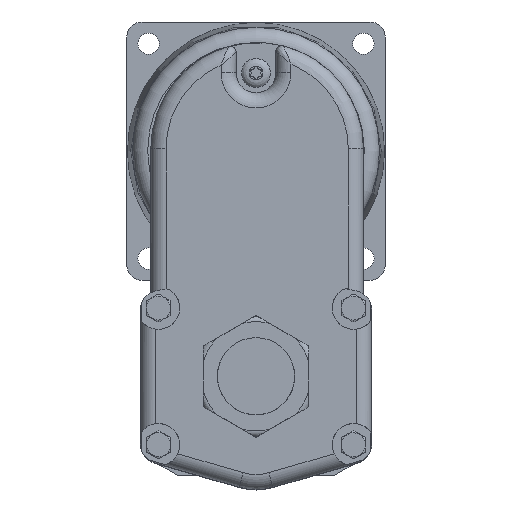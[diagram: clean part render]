
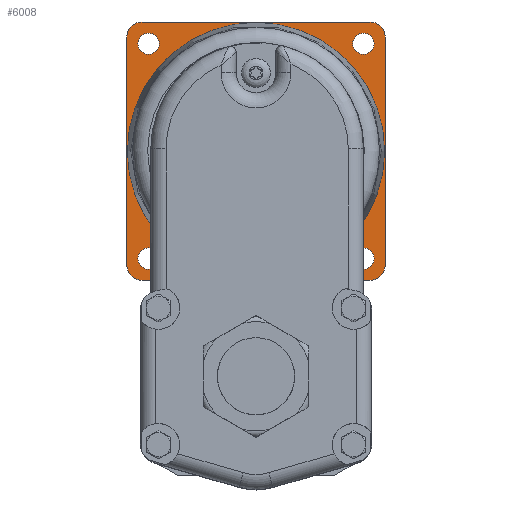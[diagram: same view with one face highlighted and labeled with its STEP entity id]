
A CAD part, top view. The second image highlights one B-rep face of the part: STEP entity #6008.
In plain terms, the highlighted planar face has unit normal (0, 0, 1).
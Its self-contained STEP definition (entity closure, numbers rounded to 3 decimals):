
#1 = DIRECTION ( 'NONE',  ( 0., 0., 1. ) ) ;
#2 = DIRECTION ( 'NONE',  ( -1., 0., 0. ) ) ;
#3 = CARTESIAN_POINT ( 'NONE',  ( -42.5, 116.9, -11.3 ) ) ;
#4 = DIRECTION ( 'NONE',  ( -1., 0., 0. ) ) ;
#6 = DIRECTION ( 'NONE',  ( 0., 0., 1. ) ) ;
#7 = DIRECTION ( 'NONE',  ( -1., 0., 0. ) ) ;
#10 = DIRECTION ( 'NONE',  ( 0., 0., 1. ) ) ;
#11 = DIRECTION ( 'NONE',  ( 1., 0., 0. ) ) ;
#14 = CARTESIAN_POINT ( 'NONE',  ( -35.355, 109.755, -11.3 ) ) ;
#15 = DIRECTION ( 'NONE',  ( 0., 0., 1. ) ) ;
#16 = DIRECTION ( 'NONE',  ( 1., 0., 0. ) ) ;
#961 = CARTESIAN_POINT ( 'NONE',  ( 42.5, 116.9, -11.3 ) ) ;
#962 = PLANE ( 'NONE',  #11588 ) ;
#964 = DIRECTION ( 'NONE',  ( 0., 0., -1. ) ) ;
#965 = DIRECTION ( 'NONE',  ( -1., 0., 0. ) ) ;
#1395 = VERTEX_POINT ( 'NONE', #1396 ) ;
#1396 = CARTESIAN_POINT ( 'NONE',  ( -42.331, 74.4, -11.3 ) ) ;
#1407 = VERTEX_POINT ( 'NONE', #1408 ) ;
#1408 = CARTESIAN_POINT ( 'NONE',  ( 38.855, 109.755, -11.3 ) ) ;
#1415 = VERTEX_POINT ( 'NONE', #1416 ) ;
#1416 = CARTESIAN_POINT ( 'NONE',  ( -31.855, 39.045, -11.3 ) ) ;
#1417 = VERTEX_POINT ( 'NONE', #1418 ) ;
#1418 = CARTESIAN_POINT ( 'NONE',  ( 38.855, 39.045, -11.3 ) ) ;
#1419 = VERTEX_POINT ( 'NONE', #1420 ) ;
#1420 = CARTESIAN_POINT ( 'NONE',  ( -31.855, 109.755, -11.3 ) ) ;
#1810 = VERTEX_POINT ( 'NONE', #2311 ) ;
#1811 = VERTEX_POINT ( 'NONE', #2312 ) ;
#2240 = VERTEX_POINT ( 'NONE', #2741 ) ;
#2241 = VERTEX_POINT ( 'NONE', #2742 ) ;
#2242 = VERTEX_POINT ( 'NONE', #2743 ) ;
#2247 = VERTEX_POINT ( 'NONE', #2748 ) ;
#2277 = VERTEX_POINT ( 'NONE', #2778 ) ;
#2279 = VERTEX_POINT ( 'NONE', #2780 ) ;
#2311 = CARTESIAN_POINT ( 'NONE',  ( 42.5, 36.9, -11.3 ) ) ;
#2312 = CARTESIAN_POINT ( 'NONE',  ( 37.5, 31.9, -11.3 ) ) ;
#2741 = CARTESIAN_POINT ( 'NONE',  ( -37.5, 116.9, -11.3 ) ) ;
#2742 = CARTESIAN_POINT ( 'NONE',  ( -42.5, 36.9, -11.3 ) ) ;
#2743 = CARTESIAN_POINT ( 'NONE',  ( -42.5, 111.9, -11.3 ) ) ;
#2748 = CARTESIAN_POINT ( 'NONE',  ( -37.5, 31.9, -11.3 ) ) ;
#2778 = CARTESIAN_POINT ( 'NONE',  ( 42.5, 111.9, -11.3 ) ) ;
#2780 = CARTESIAN_POINT ( 'NONE',  ( 37.5, 116.9, -11.3 ) ) ;
#4971 = ORIENTED_EDGE ( 'NONE', *, *, #5436, .F. ) ;
#4972 = ORIENTED_EDGE ( 'NONE', *, *, #5441, .F. ) ;
#4973 = ORIENTED_EDGE ( 'NONE', *, *, #5432, .T. ) ;
#4974 = ORIENTED_EDGE ( 'NONE', *, *, #5442, .T. ) ;
#4975 = ORIENTED_EDGE ( 'NONE', *, *, #5438, .T. ) ;
#4976 = ORIENTED_EDGE ( 'NONE', *, *, #5443, .T. ) ;
#4977 = ORIENTED_EDGE ( 'NONE', *, *, #5444, .T. ) ;
#4978 = ORIENTED_EDGE ( 'NONE', *, *, #5445, .T. ) ;
#4979 = ORIENTED_EDGE ( 'NONE', *, *, #5446, .T. ) ;
#4980 = ORIENTED_EDGE ( 'NONE', *, *, #5447, .T. ) ;
#4981 = ORIENTED_EDGE ( 'NONE', *, *, #5449, .F. ) ;
#4982 = ORIENTED_EDGE ( 'NONE', *, *, #5451, .F. ) ;
#4983 = ORIENTED_EDGE ( 'NONE', *, *, #5381, .T. ) ;
#5381 = EDGE_CURVE ( 'NONE', #1395, #1395, #10587, .T. ) ;
#5432 = EDGE_CURVE ( 'NONE', #2242, #2241, #10667, .T. ) ;
#5436 = EDGE_CURVE ( 'NONE', #1407, #1407, #10675, .T. ) ;
#5438 = EDGE_CURVE ( 'NONE', #2247, #1811, #10669, .T. ) ;
#5441 = EDGE_CURVE ( 'NONE', #1415, #1415, #10681, .T. ) ;
#5442 = EDGE_CURVE ( 'NONE', #2241, #2247, #10683, .T. ) ;
#5443 = EDGE_CURVE ( 'NONE', #1811, #1810, #10685, .T. ) ;
#5444 = EDGE_CURVE ( 'NONE', #1810, #2277, #10674, .T. ) ;
#5445 = EDGE_CURVE ( 'NONE', #2277, #2279, #10687, .T. ) ;
#5446 = EDGE_CURVE ( 'NONE', #2279, #2240, #10673, .T. ) ;
#5447 = EDGE_CURVE ( 'NONE', #2240, #2242, #10690, .T. ) ;
#5449 = EDGE_CURVE ( 'NONE', #1417, #1417, #10692, .T. ) ;
#5451 = EDGE_CURVE ( 'NONE', #1419, #1419, #10695, .T. ) ;
#6008 = ADVANCED_FACE ( 'NONE', ( #11075, #11078, #11082, #11084, #11079, #11077 ), #962, .F. ) ;
#6863 = EDGE_LOOP ( 'NONE', ( #4971 ) ) ;
#6870 = EDGE_LOOP ( 'NONE', ( #4972 ) ) ;
#6871 = EDGE_LOOP ( 'NONE', ( #4973, #4974, #4975, #4976, #4977, #4978, #4979, #4980 ) ) ;
#6872 = EDGE_LOOP ( 'NONE', ( #4981 ) ) ;
#6873 = EDGE_LOOP ( 'NONE', ( #4982 ) ) ;
#6874 = EDGE_LOOP ( 'NONE', ( #4983 ) ) ;
#10004 = CARTESIAN_POINT ( 'NONE',  ( 0., 74.4, -11.3 ) ) ;
#10012 = DIRECTION ( 'NONE',  ( 0., 0., -1. ) ) ;
#10013 = DIRECTION ( 'NONE',  ( -1., 0., 0. ) ) ;
#10132 = CARTESIAN_POINT ( 'NONE',  ( -42.5, 116.9, -11.3 ) ) ;
#10133 = DIRECTION ( 'NONE',  ( 0., -1., 0. ) ) ;
#10135 = CARTESIAN_POINT ( 'NONE',  ( -35.355, 39.045, -11.3 ) ) ;
#10143 = CARTESIAN_POINT ( 'NONE',  ( 35.355, 109.755, -11.3 ) ) ;
#10144 = DIRECTION ( 'NONE',  ( 0., 0., 1. ) ) ;
#10145 = DIRECTION ( 'NONE',  ( 1., 0., 0. ) ) ;
#10149 = CARTESIAN_POINT ( 'NONE',  ( -42.5, 31.9, -11.3 ) ) ;
#10150 = DIRECTION ( 'NONE',  ( 1., 0., 0. ) ) ;
#10154 = CARTESIAN_POINT ( 'NONE',  ( -37.5, 36.9, -11.3 ) ) ;
#10157 = CARTESIAN_POINT ( 'NONE',  ( 37.5, 36.9, -11.3 ) ) ;
#10158 = DIRECTION ( 'NONE',  ( 0., 0., 1. ) ) ;
#10159 = DIRECTION ( 'NONE',  ( 1., 0., 0. ) ) ;
#10160 = CARTESIAN_POINT ( 'NONE',  ( 37.5, 111.9, -11.3 ) ) ;
#10161 = DIRECTION ( 'NONE',  ( 0., 0., 1. ) ) ;
#10162 = DIRECTION ( 'NONE',  ( -1., 0., 0. ) ) ;
#10163 = CARTESIAN_POINT ( 'NONE',  ( -37.5, 111.9, -11.3 ) ) ;
#10164 = DIRECTION ( 'NONE',  ( 0., 0., 1. ) ) ;
#10165 = DIRECTION ( 'NONE',  ( -1., 0., 0. ) ) ;
#10166 = CARTESIAN_POINT ( 'NONE',  ( 42.5, 116.9, -11.3 ) ) ;
#10167 = DIRECTION ( 'NONE',  ( 0., 1., 0. ) ) ;
#10168 = CARTESIAN_POINT ( 'NONE',  ( 35.355, 39.045, -11.3 ) ) ;
#10587 = CIRCLE ( 'NONE', #11307, 42.331 ) ;
#10667 = LINE ( 'NONE', #10132, #10668 ) ;
#10668 = VECTOR ( 'NONE', #10133, 1000. ) ;
#10669 = LINE ( 'NONE', #10149, #10676 ) ;
#10673 = LINE ( 'NONE', #3, #10684 ) ;
#10674 = LINE ( 'NONE', #10166, #10682 ) ;
#10675 = CIRCLE ( 'NONE', #11381, 3.5 ) ;
#10676 = VECTOR ( 'NONE', #10150, 1000. ) ;
#10681 = CIRCLE ( 'NONE', #11387, 3.5 ) ;
#10682 = VECTOR ( 'NONE', #10167, 1000. ) ;
#10683 = CIRCLE ( 'NONE', #11388, 5. ) ;
#10684 = VECTOR ( 'NONE', #4, 1000. ) ;
#10685 = CIRCLE ( 'NONE', #11385, 5. ) ;
#10687 = CIRCLE ( 'NONE', #11389, 5. ) ;
#10690 = CIRCLE ( 'NONE', #11390, 5. ) ;
#10692 = CIRCLE ( 'NONE', #11391, 3.5 ) ;
#10695 = CIRCLE ( 'NONE', #11378, 3.5 ) ;
#11075 = FACE_BOUND ( 'NONE', #6863, .T. ) ;
#11077 = FACE_BOUND ( 'NONE', #6874, .T. ) ;
#11078 = FACE_BOUND ( 'NONE', #6870, .T. ) ;
#11079 = FACE_BOUND ( 'NONE', #6873, .T. ) ;
#11082 = FACE_OUTER_BOUND ( 'NONE', #6871, .T. ) ;
#11084 = FACE_BOUND ( 'NONE', #6872, .T. ) ;
#11307 = AXIS2_PLACEMENT_3D ( 'NONE', #10004, #10012, #10013 ) ;
#11378 = AXIS2_PLACEMENT_3D ( 'NONE', #14, #15, #16 ) ;
#11381 = AXIS2_PLACEMENT_3D ( 'NONE', #10143, #10144, #10145 ) ;
#11385 = AXIS2_PLACEMENT_3D ( 'NONE', #10157, #10164, #10165 ) ;
#11387 = AXIS2_PLACEMENT_3D ( 'NONE', #10135, #10158, #10159 ) ;
#11388 = AXIS2_PLACEMENT_3D ( 'NONE', #10154, #10161, #10162 ) ;
#11389 = AXIS2_PLACEMENT_3D ( 'NONE', #10160, #1, #2 ) ;
#11390 = AXIS2_PLACEMENT_3D ( 'NONE', #10163, #6, #7 ) ;
#11391 = AXIS2_PLACEMENT_3D ( 'NONE', #10168, #10, #11 ) ;
#11588 = AXIS2_PLACEMENT_3D ( 'NONE', #961, #964, #965 ) ;
